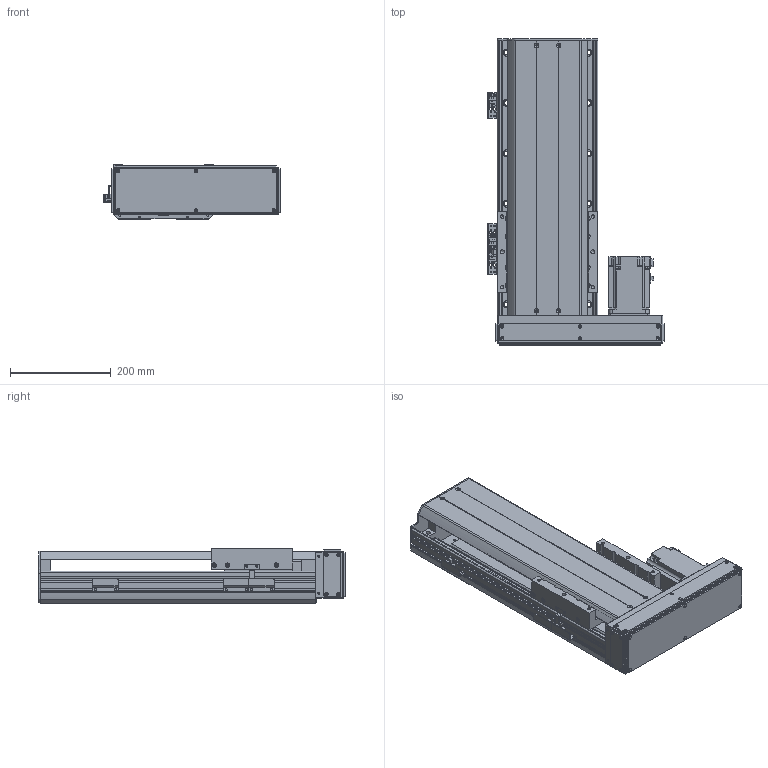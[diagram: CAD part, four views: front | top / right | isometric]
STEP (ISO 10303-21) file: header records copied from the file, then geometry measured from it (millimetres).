
FILE_DESCRIPTION(/* description */ ('MANUFACTURE'),/* implementation_level */ '2;1');
FILE_NAME(/* name */ '\\192.168.0.160\disk1\HAN SHIN Master\B-설계부문\C-표준\B-2024년\BC02-표준도면\+로봇 개선표준도면\홈페이지 표준 도면\홈페이지 최종 작업 폴더\3D\HR\HR200\HG200병렬\우병렬\HR200-R70-N-0300-L10.stp',/* time_stamp */ '2025-01-18T11:28:04+09:00',/* author */ ('user'),/* organization */ (''),/* preprocessor_version */ 'ST-DEVELOPER v18.1',/* originating_system */ 'Autodesk Inventor 2022',/* authorisation */ 'LIP');
FILE_SCHEMA (('AUTOMOTIVE_DESIGN { 1 0 10303 214 3 1 1 }'));
Products named in the file (19): HG200-L70-N-0500-R10; HR200 S BASE-개선; HR180 FRONT BLOCK; HR180 FRONT BLOCK_1; HR200 S UPCOVER; HR200 TABLE (W,N); 750W MOTOR PLATE; HG200 750W LR MOTOR PLATE-사출; hg-kr73_; 화살표; HR160 400W LR BELT COVER; HR200 ACRYL COVER -1; HR200 ACRYL COVER -1_1; HR200 ACRYL COVER -1_2; HG200 BOTTOM COVER; HR200 SENSOR DOG; SENSOR BRK(EE-SX674A); EE_SX674A; HR200 FRONT COVER
Assembly tree (24 placements, depth 2):
  HG200-L70-N-0500-R10
    HR200 S BASE-개선
    HR180 FRONT BLOCK
    HR180 FRONT BLOCK_1
    HR200 S UPCOVER
    HR200 TABLE (W,N)
    750W MOTOR PLATE
    HG200 750W LR MOTOR PLATE-사출
    hg-kr73_
    화살표  x2
    HR160 400W LR BELT COVER
    HR200 ACRYL COVER -1
    HR200 ACRYL COVER -1_1
    HR200 ACRYL COVER -1_2  x2
    HG200 BOTTOM COVER
    HR200 SENSOR DOG
    EE_SX674A  x3
    SENSOR BRK(EE-SX674A)  x3
    HR200 FRONT COVER
Bounding box: 351 x 608 x 109 mm (x, y, z)
Volume: 5050627.8 mm3; surface area: 1346784.9 mm2
Topology: 24 solids, 24 shells, 3306 faces, 9317 edges, 6161 vertices
Faces by surface type: plane 2468, cylinder 714, cone 120, sphere 4
Full cylindrical faces by diameter (mm): 2.459 x50, 3 x10, 3.242 x18, 3.4 x20, 3.5 x6, 4 x6, 4.134 x10, 4.5 x14, 4.917 x30, 5 x20, 5.5 x5, 5.9 x4, 6 x6, 6.6 x24, 6.647 x22, 7 x4, 7.6 x4, 8 x4, 9 x24, 9.5 x1, 11 x24, 14 x12, 19 x1, 25 x1, 27 x1, 30 x1, 32 x1, 38 x1, 42 x2, 44.5 x1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
Entity records: 102808 total; most frequent: CARTESIAN_POINT 19382, ORIENTED_EDGE 17422, DIRECTION 16217, EDGE_CURVE 8711, LINE 7195, VECTOR 7195, VERTEX_POINT 5813, AXIS2_PLACEMENT_3D 4511
